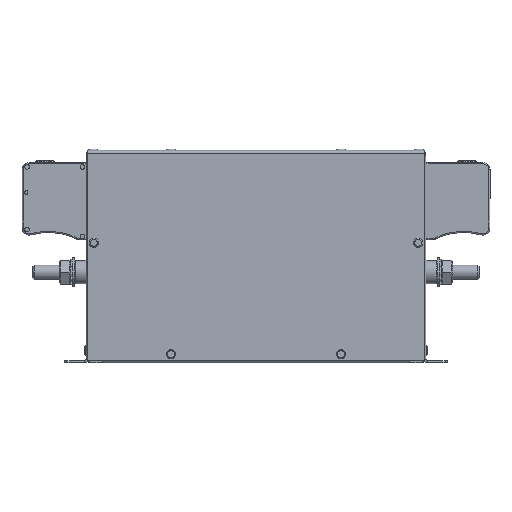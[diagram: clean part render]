
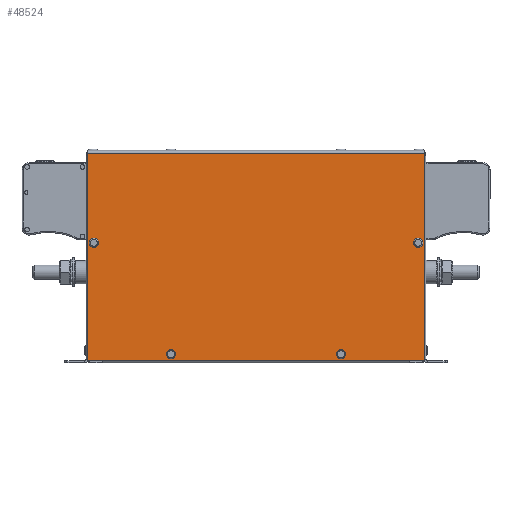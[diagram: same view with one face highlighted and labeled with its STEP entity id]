
A CAD part, front view. The second image highlights one B-rep face of the part: STEP entity #48524.
In plain terms, the highlighted planar face has unit normal (0, -1, 0).
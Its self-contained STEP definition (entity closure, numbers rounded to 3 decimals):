
#42898=CARTESIAN_POINT('',(-117.75,-90.,10.45));
#42899=VERTEX_POINT('',#42898);
#42900=CARTESIAN_POINT('',(-114.5,-90.,10.45));
#42901=DIRECTION('',(0.,1.0,0.));
#42902=DIRECTION('',(-1.0,0.,0.));
#42903=AXIS2_PLACEMENT_3D('',#42900,#42901,#42902);
#42904=CIRCLE('',#42903,3.25);
#42905=EDGE_CURVE('',#42899,#42899,#42904,.T.);
#43082=CARTESIAN_POINT('',(-63.25,-90.,-68.25));
#43083=VERTEX_POINT('',#43082);
#43084=CARTESIAN_POINT('',(-60.,-90.,-68.25));
#43085=DIRECTION('',(0.,1.0,0.));
#43086=DIRECTION('',(-1.0,0.,0.));
#43087=AXIS2_PLACEMENT_3D('',#43084,#43085,#43086);
#43088=CIRCLE('',#43087,3.25);
#43089=EDGE_CURVE('',#43083,#43083,#43088,.T.);
#43834=CARTESIAN_POINT('',(111.25,-90.,10.45));
#43835=VERTEX_POINT('',#43834);
#43836=CARTESIAN_POINT('',(114.5,-90.,10.45));
#43837=DIRECTION('',(0.,1.0,0.));
#43838=DIRECTION('',(-1.0,0.,0.));
#43839=AXIS2_PLACEMENT_3D('',#43836,#43837,#43838);
#43840=CIRCLE('',#43839,3.25);
#43841=EDGE_CURVE('',#43835,#43835,#43840,.T.);
#44018=CARTESIAN_POINT('',(56.75,-90.,-68.25));
#44019=VERTEX_POINT('',#44018);
#44020=CARTESIAN_POINT('',(60.,-90.,-68.25));
#44021=DIRECTION('',(0.,1.0,0.));
#44022=DIRECTION('',(-1.0,0.,0.));
#44023=AXIS2_PLACEMENT_3D('',#44020,#44021,#44022);
#44024=CIRCLE('',#44023,3.25);
#44025=EDGE_CURVE('',#44019,#44019,#44024,.T.);
#48203=CARTESIAN_POINT('',(-119.,-90.,-72.75));
#48204=VERTEX_POINT('',#48203);
#48211=CARTESIAN_POINT('',(-119.,-90.,73.45));
#48212=VERTEX_POINT('',#48211);
#48213=CARTESIAN_POINT('',(-119.,-90.,-72.75));
#48214=DIRECTION('',(0.0,0.0,1.0));
#48215=VECTOR('',#48214,146.2);
#48216=LINE('',#48213,#48215);
#48217=EDGE_CURVE('',#48204,#48212,#48216,.T.);
#48426=CARTESIAN_POINT('',(119.,-90.,73.45));
#48427=VERTEX_POINT('',#48426);
#48435=CARTESIAN_POINT('',(119.,-90.,-72.75));
#48436=VERTEX_POINT('',#48435);
#48437=CARTESIAN_POINT('',(119.,-90.,73.45));
#48438=DIRECTION('',(0.0,0.0,-1.0));
#48439=VECTOR('',#48438,146.2);
#48440=LINE('',#48437,#48439);
#48441=EDGE_CURVE('',#48427,#48436,#48440,.T.);
#48474=CARTESIAN_POINT('',(119.,-90.,73.45));
#48475=DIRECTION('',(-1.0,0.,0.0));
#48476=VECTOR('',#48475,238.);
#48477=LINE('',#48474,#48476);
#48478=EDGE_CURVE('',#48427,#48212,#48477,.T.);
#48496=CARTESIAN_POINT('',(0.,-90.,1.5));
#48497=DIRECTION('',(0.,-1.0,0.));
#48498=DIRECTION('',(1.0,0.,0.));
#48499=AXIS2_PLACEMENT_3D('',#48496,#48497,#48498);
#48500=PLANE('',#48499);
#48501=ORIENTED_EDGE('',*,*,#48478,.T.);
#48502=ORIENTED_EDGE('',*,*,#48217,.F.);
#48503=CARTESIAN_POINT('',(119.,-90.,-72.75));
#48504=DIRECTION('',(-1.0,0.,0.0));
#48505=VECTOR('',#48504,238.0);
#48506=LINE('',#48503,#48505);
#48507=EDGE_CURVE('',#48436,#48204,#48506,.T.);
#48508=ORIENTED_EDGE('',*,*,#48507,.F.);
#48509=ORIENTED_EDGE('',*,*,#48441,.F.);
#48510=EDGE_LOOP('',(#48501,#48502,#48508,#48509));
#48511=FACE_OUTER_BOUND('',#48510,.T.);
#48512=ORIENTED_EDGE('',*,*,#42905,.T.);
#48513=EDGE_LOOP('',(#48512));
#48514=FACE_BOUND('',#48513,.T.);
#48515=ORIENTED_EDGE('',*,*,#43089,.T.);
#48516=EDGE_LOOP('',(#48515));
#48517=FACE_BOUND('',#48516,.T.);
#48518=ORIENTED_EDGE('',*,*,#43841,.T.);
#48519=EDGE_LOOP('',(#48518));
#48520=FACE_BOUND('',#48519,.T.);
#48521=ORIENTED_EDGE('',*,*,#44025,.T.);
#48522=EDGE_LOOP('',(#48521));
#48523=FACE_BOUND('',#48522,.T.);
#48524=ADVANCED_FACE('',(#48511,#48514,#48517,#48520,#48523),#48500,.T.);
